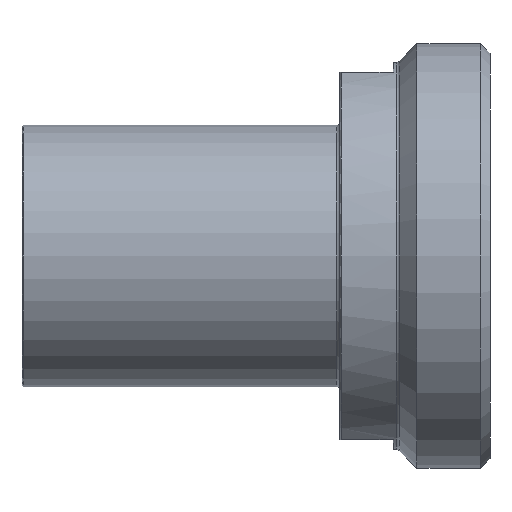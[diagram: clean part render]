
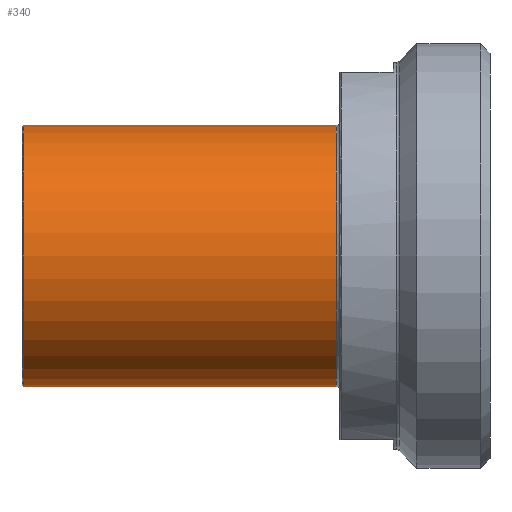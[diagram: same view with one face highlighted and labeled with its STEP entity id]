
A CAD part, front view. The second image highlights one B-rep face of the part: STEP entity #340.
In plain terms, the highlighted cylindrical face has radius 27 mm (diameter 54 mm), a full revolution.
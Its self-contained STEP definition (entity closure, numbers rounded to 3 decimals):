
#21=CYLINDRICAL_SURFACE('',#396,27.);
#44=FACE_OUTER_BOUND('',#64,.T.);
#64=EDGE_LOOP('',(#274,#275,#276,#277,#278,#279));
#88=LINE('',#608,#105);
#105=VECTOR('',#484,27.);
#124=CIRCLE('',#392,27.);
#127=CIRCLE('',#395,27.);
#128=CIRCLE('',#397,27.);
#129=CIRCLE('',#398,27.);
#159=VERTEX_POINT('',#599);
#160=VERTEX_POINT('',#600);
#162=VERTEX_POINT('',#607);
#163=VERTEX_POINT('',#609);
#200=EDGE_CURVE('',#159,#160,#124,.T.);
#203=EDGE_CURVE('',#160,#159,#127,.T.);
#204=EDGE_CURVE('',#159,#162,#88,.T.);
#205=EDGE_CURVE('',#163,#162,#128,.T.);
#206=EDGE_CURVE('',#162,#163,#129,.T.);
#274=ORIENTED_EDGE('',*,*,#200,.F.);
#275=ORIENTED_EDGE('',*,*,#204,.T.);
#276=ORIENTED_EDGE('',*,*,#205,.F.);
#277=ORIENTED_EDGE('',*,*,#206,.F.);
#278=ORIENTED_EDGE('',*,*,#204,.F.);
#279=ORIENTED_EDGE('',*,*,#203,.F.);
#340=ADVANCED_FACE('',(#44),#21,.T.);
#392=AXIS2_PLACEMENT_3D('',#601,#474,#475);
#395=AXIS2_PLACEMENT_3D('',#605,#480,#481);
#396=AXIS2_PLACEMENT_3D('',#606,#482,#483);
#397=AXIS2_PLACEMENT_3D('',#610,#485,#486);
#398=AXIS2_PLACEMENT_3D('',#611,#487,#488);
#474=DIRECTION('center_axis',(1.,0.,0.));
#475=DIRECTION('ref_axis',(0.,-1.,0.));
#480=DIRECTION('center_axis',(1.,0.,0.));
#481=DIRECTION('ref_axis',(0.,-1.,0.));
#482=DIRECTION('center_axis',(1.,0.,0.));
#483=DIRECTION('ref_axis',(0.,1.,0.));
#484=DIRECTION('',(-1.,0.,0.));
#485=DIRECTION('center_axis',(-1.,0.,0.));
#486=DIRECTION('ref_axis',(0.,-1.,0.));
#487=DIRECTION('center_axis',(-1.,0.,0.));
#488=DIRECTION('ref_axis',(0.,-1.,0.));
#599=CARTESIAN_POINT('',(-31.8,-27.,0.));
#600=CARTESIAN_POINT('',(-31.8,0.,27.));
#601=CARTESIAN_POINT('Origin',(-31.8,0.,0.));
#605=CARTESIAN_POINT('Origin',(-31.8,0.,0.));
#606=CARTESIAN_POINT('Origin',(-63.85,0.,0.));
#607=CARTESIAN_POINT('',(-96.4,-27.,0.));
#608=CARTESIAN_POINT('',(-63.85,-27.,0.));
#609=CARTESIAN_POINT('',(-96.4,27.,0.));
#610=CARTESIAN_POINT('Origin',(-96.4,0.,0.));
#611=CARTESIAN_POINT('Origin',(-96.4,0.,0.));
